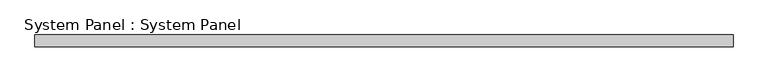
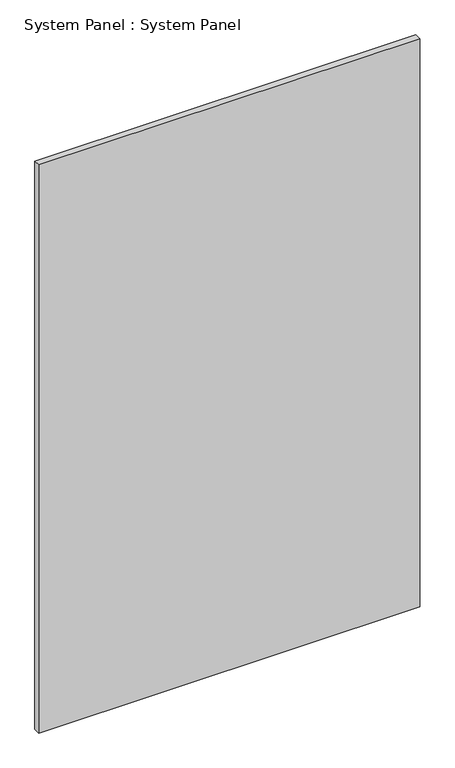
"""IFC4 building model written with IfcOpenShell, lengths in millimetres: plate geometry, System Panel : System Panel."""

from ifc_helpers import new_model, si_unit, origin, origin_with_axes, place, context, project, spatial, polyline, outline, extrude, source, transform, mapped, element, save


def system_panel_system_panel_4f7dd7d8(model_context):
    return source(origin(), model_context, "Body", "SweptSolid", [
        extrude(outline(polyline([(742.95, 19.05), (-742.95, 19.05), (-742.95, 44.45), (742.95, 44.45), (742.95, 19.05)])), origin_with_axes(), (0.0, 0.0, 1.0), 2343.15),
    ])


if __name__ == "__main__":
    model = new_model("IFC4")
    model_context = context("Model", 3, world=origin())
    ifc_project = project(units=[si_unit("LENGTHUNIT", "METRE", prefix="MILLI")], contexts=[model_context])
    site = spatial("IfcSite", under=ifc_project)
    building = spatial("IfcBuilding", under=site)
    placement = place(None, origin())
    system_panel_system_panel_shape = system_panel_system_panel_4f7dd7d8(model_context)
    element("IfcPlate", 1, ObjectType="System Panel : System Panel", at=placement, inside=building, context=model_context, shape_type="MappedRepresentation", body=[
        mapped(system_panel_system_panel_shape, transform((0.0, 0.0, 0.0), x_axis=(1.0, 0.0, 0.0), y_axis=(0.0, 1.0, 0.0), z_axis=(0.0, 0.0, 1.0))),
    ])
    save(model, "model.ifc")
